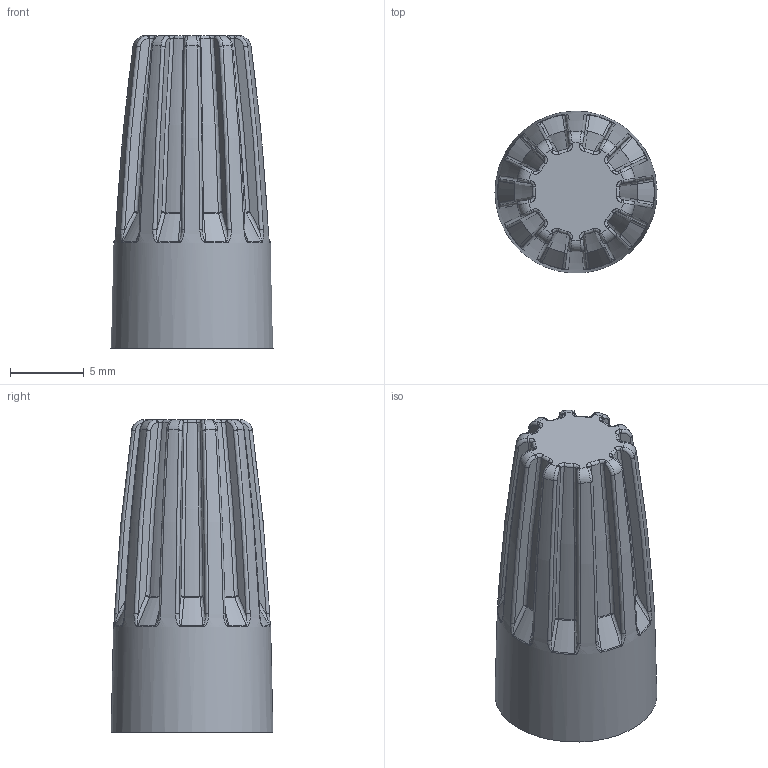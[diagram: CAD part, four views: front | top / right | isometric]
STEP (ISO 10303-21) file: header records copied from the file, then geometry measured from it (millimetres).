
FILE_DESCRIPTION(/* description */ ('Unknown'),/* implementation_level */ '2;1');
FILE_NAME(/* name */ 'Ideal 73B-2,5',/* time_stamp */ '2021-10-08T08:49:14+02:00',/* author */ ('Unknown'),/* organization */ ('Unknown'),/* preprocessor_version */ 'ST-DEVELOPER v16.7',/* originating_system */ 'Solid Edge',/* authorisation */ 'Unknown');
FILE_SCHEMA (('AUTOMOTIVE_DESIGN {1 0 10303 214 3 1 1}'));
Length unit declared in the file: millimetre
Products named in the file (1): Ideal 73B-2,5
Bounding box: 11 x 10.99 x 21.2 mm (x, y, z)
Volume: 1011.1 mm3; surface area: 1233.7 mm2
Topology: 1 solids, 1 shells, 248 faces, 572 edges, 308 vertices
Faces by surface type: bspline 120, torus 52, plane 24, sphere 20, cylinder 20, cone 12
Entity records: 8054 total; most frequent: CARTESIAN_POINT 3381, ORIENTED_EDGE 1092, DIRECTION 830, EDGE_CURVE 546, AXIS2_PLACEMENT_3D 395, VERTEX_POINT 306, CIRCLE 266, EDGE_LOOP 254
